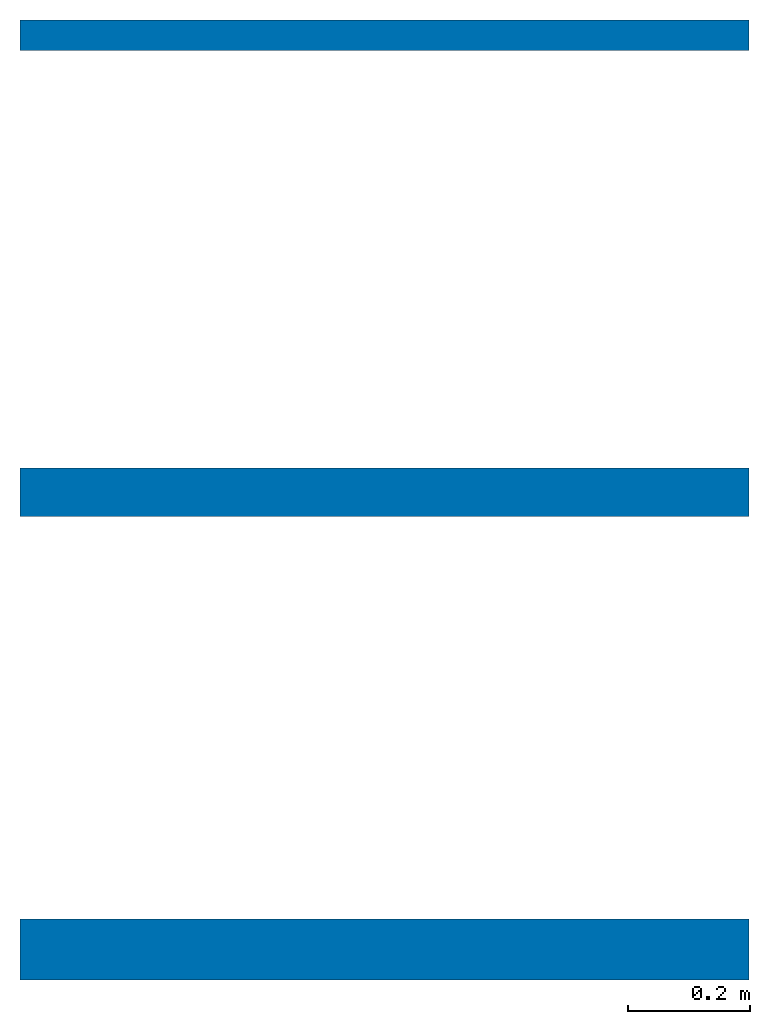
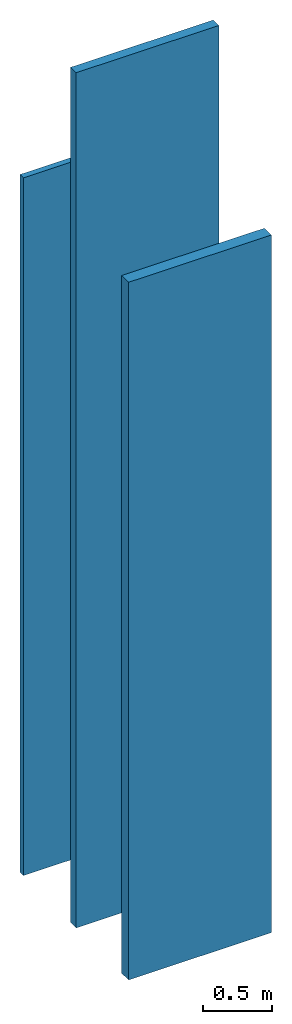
# One storey: 3 walls.
"""IFC2X3 building model written with IfcOpenShell, lengths in millimetres."""

import ifcopenshell
import ifcopenshell.guid

model = None  # the IFC model being written
_history = None  # IfcOwnerHistory: only IFC2X3 demands one
_inside = {}  # id of a spatial element -> (the spatial element, [elements in it])
_under = {}  # id of a project, library or spatial element -> (it, [spatial elements below it])
_declared = {}  # id of a project -> (the project, [libraries it declares])
_typed = {}  # id of a type object -> (the type object, [elements of that type])
_made_of = {}  # id of a material, layer set ... -> (it, [elements and type objects made of it])


def new_model(schema):
    """Start an empty IFC model of exactly this schema.

    Asked for "IFC4X3", IfcOpenShell would pick the latest addendum, in which some entities
    have other attributes; the version numbers below select the first issue.
    IFC2X3 requires an IfcOwnerHistory on every rooted entity: one is made here for all.
    """
    global model, _history
    if schema == "IFC4X3":
        model = ifcopenshell.file(schema_version=(4, 3, 0, 0))
    else:
        model = ifcopenshell.file(schema=schema)
    _inside.clear()
    _under.clear()
    _declared.clear()
    _typed.clear()
    _made_of.clear()
    _history = None
    if model.schema == "IFC2X3":
        org = make("IfcOrganization", Name="unknown")
        user = make(
            "IfcPersonAndOrganization",
            ThePerson=make("IfcPerson", FamilyName="unknown"),
            TheOrganization=org,
        )
        app = make(
            "IfcApplication",
            ApplicationDeveloper=org,
            Version="unknown",
            ApplicationFullName="unknown",
            ApplicationIdentifier="unknown",
        )
        _history = make(
            "IfcOwnerHistory",
            OwningUser=user,
            OwningApplication=app,
            ChangeAction="ADDED",
            CreationDate=0,
        )
    return model


def make(cls, **values):
    """One entity of the class cls with the attributes given. An attribute that is None is left unset."""
    return model.create_entity(
        cls, **{name: value for name, value in values.items() if value is not None}
    )


def entity(cls, *values):
    """Any entity or typed value of the class cls, its attributes in the order of the schema. None: left unset."""
    e = model.create_entity(cls)
    for i, value in enumerate(values):
        if value is not None:
            e[i] = value
    return e


def rooted(cls, **values):
    """An entity with a GlobalId (a new one), such as an element, a storey or a relation."""
    return make(cls, GlobalId=ifcopenshell.guid.new(), OwnerHistory=_history, **values)


def si_unit(unit_type, name, prefix=None):
    """IfcSIUnit, for example si_unit("LENGTHUNIT", "METRE", prefix="MILLI")."""
    return make("IfcSIUnit", UnitType=unit_type, Prefix=prefix, Name=name)


def converted_unit(unit_type, name, factor, base, dimensions=None, offset=None):
    """IfcConversionBasedUnit, such as the inch: factor (a typed value) times the base unit."""
    return make(
        "IfcConversionBasedUnit"
        if offset is None
        else "IfcConversionBasedUnitWithOffset",
        ConversionOffset=offset,
        Dimensions=None
        if dimensions is None
        else entity("IfcDimensionalExponents", *dimensions),
        UnitType=unit_type,
        Name=name,
        ConversionFactor=make(
            "IfcMeasureWithUnit", ValueComponent=factor, UnitComponent=base
        ),
    )


def derived_unit(unit_type, elements):
    """IfcDerivedUnit: a product of units, each with its exponent."""
    return make(
        "IfcDerivedUnit",
        Elements=[
            make("IfcDerivedUnitElement", Unit=unit, Exponent=power)
            for unit, power in elements
        ],
        UnitType=unit_type,
    )


def assignment(units):
    """IfcUnitAssignment: the units of a project."""
    return None if units is None else make("IfcUnitAssignment", Units=units)


def point(xyz):
    """IfcCartesianPoint."""
    return None if xyz is None else make("IfcCartesianPoint", Coordinates=xyz)


def direction(xyz):
    """IfcDirection."""
    return None if xyz is None else make("IfcDirection", DirectionRatios=xyz)


def frame(location, z_axis=None, x_axis=None):
    """IfcAxis2Placement3D, a coordinate frame: its origin and axes. An axis left out is left unset."""
    return make(
        "IfcAxis2Placement3D",
        Location=point(location),
        Axis=direction(z_axis),
        RefDirection=direction(x_axis),
    )


def frame_2d(location, x_axis=None):
    """IfcAxis2Placement2D, a coordinate frame in the plane: its origin and x axis."""
    return make(
        "IfcAxis2Placement2D", Location=point(location), RefDirection=direction(x_axis)
    )


def origin():
    """The frame at (0, 0, 0) with its axes left unset."""
    return frame((0.0, 0.0, 0.0))


def place(relative_to, where):
    """IfcLocalPlacement: puts the frame where relative to a parent placement (None: the world)."""
    return make(
        "IfcLocalPlacement", PlacementRelTo=relative_to, RelativePlacement=where
    )


def context(
    kind, dimensions, precision=None, world=None, true_north=None, identifier=None
):
    """IfcGeometricRepresentationContext, for example the 3D "Model" context."""
    return make(
        "IfcGeometricRepresentationContext",
        ContextIdentifier=identifier,
        ContextType=kind,
        CoordinateSpaceDimension=dimensions,
        Precision=precision,
        WorldCoordinateSystem=world,
        TrueNorth=true_north,
    )


def subcontext(parent, identifier, kind, view, scale=None):
    """IfcGeometricRepresentationSubContext, for example "Body" below "Model"."""
    return make(
        "IfcGeometricRepresentationSubContext",
        ContextIdentifier=identifier,
        ContextType=kind,
        ParentContext=parent,
        TargetScale=scale,
        TargetView=view,
    )


def project(units=None, contexts=None):
    """IfcProject with its units and contexts."""
    return rooted(
        "IfcProject",
        Name="project",
        RepresentationContexts=contexts,
        UnitsInContext=assignment(units),
    )


def spatial(cls, under=None, at=None, **own):
    """A site, building, storey or space (cls), placed at a placement, below another one or the project."""
    s = rooted(cls, ObjectPlacement=at, **own)
    if under is not None:
        _under.setdefault(under.id(), (under, []))[1].append(s)
    return s


def profile(cls, at=None, kind="AREA", **sizes):
    """A parametric profile (cls). Its sizes go by their IFC names, for example OverallWidth=200.0."""
    return make(cls, ProfileType=kind, Position=at, **sizes)


def rectangle(**sizes):
    """IfcRectangleProfileDef."""
    return profile("IfcRectangleProfileDef", **sizes)


def extrude(swept, where, along, depth):
    """IfcExtrudedAreaSolid: the profile swept, set in the frame where, extruded along a direction by depth."""
    return make(
        "IfcExtrudedAreaSolid",
        SweptArea=swept,
        Position=where,
        ExtrudedDirection=direction(along),
        Depth=depth,
    )


def shape(context_of_items, identifier, shape_type, items):
    """IfcShapeRepresentation: the items that make up one representation, for example the "Body"."""
    return make(
        "IfcShapeRepresentation",
        ContextOfItems=context_of_items,
        RepresentationIdentifier=identifier,
        RepresentationType=shape_type,
        Items=items,
    )


def material(Name=None, Category=None):
    """IfcMaterial."""
    return make("IfcMaterial", Name=Name, Category=Category)


def layer(
    of_material, thickness, ventilated=None, Name=None, Category=None, Priority=None
):
    """IfcMaterialLayer: one layer of a wall or slab, of a material (None: an air gap)."""
    return make(
        "IfcMaterialLayer",
        Material=of_material,
        LayerThickness=thickness,
        IsVentilated=ventilated,
        Name=Name,
        Category=Category,
        Priority=Priority,
    )


def layer_set(layers, Name=None):
    """IfcMaterialLayerSet."""
    return make("IfcMaterialLayerSet", MaterialLayers=layers, LayerSetName=Name)


def layer_usage(for_layer_set, set_direction, sense, offset, extent=None):
    """IfcMaterialLayerSetUsage: how a layer set lies in its element."""
    return make(
        "IfcMaterialLayerSetUsage",
        ForLayerSet=for_layer_set,
        LayerSetDirection=set_direction,
        DirectionSense=sense,
        OffsetFromReferenceLine=offset,
        ReferenceExtent=extent,
    )


def made_of(thing, what):
    """Note that an element or type object is made of a material, layer set ...; save() writes the relation."""
    if what is not None:
        _made_of.setdefault(what.id(), (what, []))[1].append(thing)
    return thing


def type_object(cls, material=None, **own):
    """A type object (cls), such as IfcWallType, which elements share."""
    return made_of(rooted(cls, **own), material)


def element(
    cls,
    number,
    at=None,
    inside=None,
    cuts=None,
    type_object=None,
    material=None,
    context=None,
    identifier="Body",
    shape_type=None,
    held_by="IfcProductDefinitionShape",
    body=None,
    shapes=None,
    **own,
):
    """One element of the class cls, such as IfcWall. Its Tag is "e" and its number.

    at: its placement. inside: the storey or other place that contains it. cuts: it is an
    opening in that element (IfcRelVoidsElement). A single representation is given by context,
    identifier, shape_type and body (its items); several are given by shapes. held_by: the class
    of the entity that holds the representations. save() writes the other relations.
    """
    e = rooted(cls, Tag="e%d" % number, ObjectPlacement=at, **own)
    if body is not None:
        shapes = [shape(context, identifier, shape_type, body)]
    if shapes is not None:
        e.Representation = make(held_by, Representations=shapes)
    if inside is not None:
        _inside.setdefault(inside.id(), (inside, []))[1].append(e)
    if cuts is not None:
        rooted(
            "IfcRelVoidsElement", RelatingBuildingElement=cuts, RelatedOpeningElement=e
        )
    if type_object is not None:
        _typed.setdefault(type_object.id(), (type_object, []))[1].append(e)
    return made_of(e, material)


def aggregate(whole, parts):
    """IfcRelAggregates: a whole, such as a stair, and the parts it consists of."""
    return rooted("IfcRelAggregates", RelatingObject=whole, RelatedObjects=parts)


def save(model, path):
    """Write the relations noted so far, then the file.

    IfcRelAggregates (storeys below a building ...), IfcRelContainedInSpatialStructure (elements
    in a storey), IfcRelDefinesByType, IfcRelAssociatesMaterial and IfcRelDeclares: one each for
    every whole, place, type object, material and project.
    """
    for whole, parts in _under.values():
        aggregate(whole, parts)
    for where, things in _inside.values():
        rooted(
            "IfcRelContainedInSpatialStructure",
            RelatedElements=things,
            RelatingStructure=where,
        )
    for kind, things in _typed.values():
        rooted("IfcRelDefinesByType", RelatedObjects=things, RelatingType=kind)
    for what, things in _made_of.values():
        rooted("IfcRelAssociatesMaterial", RelatedObjects=things, RelatingMaterial=what)
    for by, libraries in _declared.values():
        rooted("IfcRelDeclares", RelatingContext=by, RelatedDefinitions=libraries)
    model.write(path)


model = new_model("IFC2X3")

# Units and contexts
model_context = context("Model", 3, precision=0.01, world=origin(), true_north=direction((6.12303176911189e-17, 1.0)))
body_context = subcontext(model_context, "Body", "Model", "MODEL_VIEW")
ifc_project = project(units=[si_unit("LENGTHUNIT", "METRE", prefix="MILLI"), si_unit("AREAUNIT", "SQUARE_METRE"), si_unit("VOLUMEUNIT", "CUBIC_METRE"), converted_unit("PLANEANGLEUNIT", "DEGREE", entity("IfcRatioMeasure", 0.0174532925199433), si_unit("PLANEANGLEUNIT", "RADIAN"), dimensions=[0, 0, 0, 0, 0, 0, 0]), si_unit("MASSUNIT", "GRAM", prefix="KILO"), si_unit("TIMEUNIT", "SECOND"), si_unit("FREQUENCYUNIT", "HERTZ"), si_unit("THERMODYNAMICTEMPERATUREUNIT", "DEGREE_CELSIUS"), derived_unit("THERMALTRANSMITTANCEUNIT", [(si_unit("MASSUNIT", "GRAM", prefix="KILO"), 1), (si_unit("THERMODYNAMICTEMPERATUREUNIT", "KELVIN"), -1), (si_unit("TIMEUNIT", "SECOND"), -3)]), derived_unit("VOLUMETRICFLOWRATEUNIT", [(si_unit("LENGTHUNIT", "METRE"), 3), (si_unit("TIMEUNIT", "SECOND"), -1)]), si_unit("ELECTRICCURRENTUNIT", "AMPERE"), si_unit("ELECTRICVOLTAGEUNIT", "VOLT"), si_unit("POWERUNIT", "WATT"), si_unit("FORCEUNIT", "NEWTON", prefix="KILO"), si_unit("ILLUMINANCEUNIT", "LUX"), si_unit("LUMINOUSFLUXUNIT", "LUMEN"), si_unit("LUMINOUSINTENSITYUNIT", "CANDELA"), derived_unit("USERDEFINED", [(si_unit("MASSUNIT", "GRAM", prefix="KILO"), -1), (si_unit("LENGTHUNIT", "METRE"), -2), (si_unit("TIMEUNIT", "SECOND"), 3), (si_unit("LUMINOUSFLUXUNIT", "LUMEN"), 1)]), derived_unit("LINEARVELOCITYUNIT", [(si_unit("LENGTHUNIT", "METRE"), 1), (si_unit("TIMEUNIT", "SECOND"), -1)]), si_unit("PRESSUREUNIT", "PASCAL"), derived_unit("USERDEFINED", [(si_unit("LENGTHUNIT", "METRE"), -2), (si_unit("MASSUNIT", "GRAM", prefix="KILO"), 1), (si_unit("TIMEUNIT", "SECOND"), -2)])], contexts=[model_context])

# Site, building, storey
site_placement = place(None, origin())
site = spatial("IfcSite", under=ifc_project, at=site_placement, Name="Default", CompositionType="ELEMENT")
building_placement = place(site_placement, origin())
building = spatial("IfcBuilding", under=site, at=building_placement, CompositionType="ELEMENT")
storey_placement = place(building_placement, origin())
storey = spatial("IfcBuildingStorey", under=building, at=storey_placement, Name="Референтни ниво", CompositionType="ELEMENT", Elevation=0.0)

# Walls
ifc_material_1 = material(Name="Knauf Insulation - NatuRoll Pro - 50 mm - 50 x 6200 x 1200 mm")
ifc_layer_1 = layer(ifc_material_1, 50.0)
ifc_layer_set_1 = layer_set([ifc_layer_1], Name="Basic Wall:Knauf Insulation - NatuRoll Pro - 50 mm -50 x 6200 x 1200 mm")
ifc_layer_usage_1 = layer_usage(ifc_layer_set_1, "AXIS2", "NEGATIVE", 25.0)
wall_type_1 = type_object("IfcWallType", Name="Basic Wall:Knauf Insulation - NatuRoll Pro - 50 mm -50 x 6200 x 1200 mm", PredefinedType="STANDARD", material=ifc_layer_set_1)
wall_1_placement = place(storey_placement, frame((-221558.983565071, 183217.205473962, 0.0)))
element("IfcWallStandardCase", 1, at=wall_1_placement, inside=storey, type_object=wall_type_1, material=ifc_layer_usage_1, Name="Basic Wall:Knauf Insulation - NatuRoll Pro - 50 mm -50 x 6200 x 1200 mm", ObjectType="Basic Wall:Knauf Insulation - NatuRoll Pro - 50 mm -50 x 6200 x 1200 mm", context=body_context, shape_type="SweptSolid", body=[
    extrude(rectangle(XDim=1200.0, YDim=50.0000000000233, at=frame_2d((600.000000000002, 0.0), x_axis=(-1.0, 0.0))), origin(), (0.0, 0.0, 1.0), 6200.0),
])
ifc_material_2 = material(Name="Knauf Insulation - NatuRoll Pro - 80 mm - 80 x 7600 x 1200 mm")
ifc_layer_2 = layer(ifc_material_2, 80.0)
ifc_layer_set_2 = layer_set([ifc_layer_2], Name="Basic Wall:Knauf Insulation - NatuRoll Pro - 80 mm - 80 x 7600 x 1200 mm")
ifc_layer_usage_2 = layer_usage(ifc_layer_set_2, "AXIS2", "NEGATIVE", 40.0)
wall_type_2 = type_object("IfcWallType", Name="Basic Wall:Knauf Insulation - NatuRoll Pro - 80 mm - 80 x 7600 x 1200 mm", PredefinedType="STANDARD", material=ifc_layer_set_2)
wall_2_placement = place(storey_placement, frame((-221558.983565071, 182464.705473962, 0.0)))
element("IfcWallStandardCase", 2, at=wall_2_placement, inside=storey, type_object=wall_type_2, material=ifc_layer_usage_2, Name="Basic Wall:Knauf Insulation - NatuRoll Pro - 80 mm - 80 x 7600 x 1200 mm", ObjectType="Basic Wall:Knauf Insulation - NatuRoll Pro - 80 mm - 80 x 7600 x 1200 mm", context=body_context, shape_type="SweptSolid", body=[
    extrude(rectangle(XDim=1200.0, YDim=79.9999999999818, at=frame_2d((600.000000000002, 0.0), x_axis=(-1.0, 0.0))), origin(), (0.0, 0.0, 1.0), 7600.0),
])
ifc_material_3 = material(Name="Knauf Insulation - NatuRoll Pro - 100 mm - 100 x 6200 x 1200 mm")
ifc_layer_3 = layer(ifc_material_3, 100.0)
ifc_layer_set_3 = layer_set([ifc_layer_3], Name="Basic Wall:Knauf Insulation - NatuRoll Pro - 100 mm - 100 x 6200 x 1200 mm")
ifc_layer_usage_3 = layer_usage(ifc_layer_set_3, "AXIS2", "NEGATIVE", 50.0)
wall_type_3 = type_object("IfcWallType", Name="Basic Wall:Knauf Insulation - NatuRoll Pro - 100 mm - 100 x 6200 x 1200 mm", PredefinedType="STANDARD", material=ifc_layer_set_3)
wall_3_placement = place(storey_placement, frame((-221558.983565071, 181712.205473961, 0.0)))
element("IfcWallStandardCase", 3, at=wall_3_placement, inside=storey, type_object=wall_type_3, material=ifc_layer_usage_3, Name="Basic Wall:Knauf Insulation - NatuRoll Pro - 100 mm - 100 x 6200 x 1200 mm", ObjectType="Basic Wall:Knauf Insulation - NatuRoll Pro - 100 mm - 100 x 6200 x 1200 mm", context=body_context, shape_type="SweptSolid", body=[
    extrude(rectangle(XDim=1200.0, YDim=99.9999999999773, at=frame_2d((600.000000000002, 0.0), x_axis=(-1.0, 0.0))), origin(), (0.0, 0.0, 1.0), 6200.0),
])

save(model, "model.ifc")
